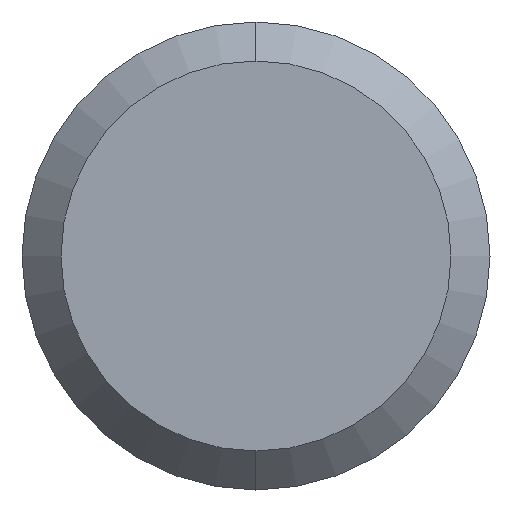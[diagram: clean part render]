
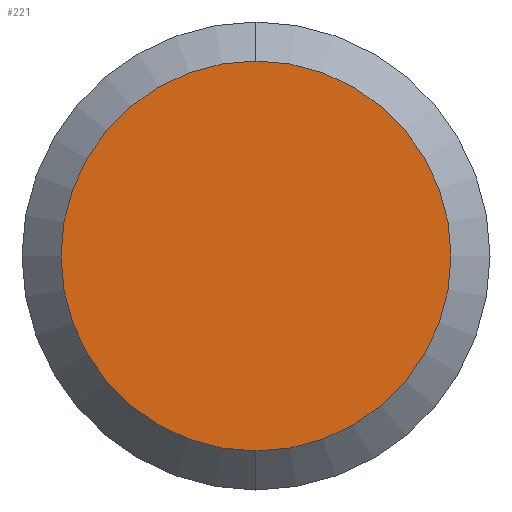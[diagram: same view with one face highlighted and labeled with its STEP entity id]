
A CAD part, left-side view. The second image highlights one B-rep face of the part: STEP entity #221.
In plain terms, the highlighted planar face has unit normal (-1, 0, 0).
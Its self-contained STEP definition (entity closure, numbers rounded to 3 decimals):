
#5 = VERTEX_POINT ( 'NONE', #322 ) ;
#13 = ORIENTED_EDGE ( 'NONE', *, *, #116, .T. ) ;
#20 = CIRCLE ( 'NONE', #216, 5. ) ;
#21 = DIRECTION ( 'NONE',  ( 1., 0., 0. ) ) ;
#60 = FACE_OUTER_BOUND ( 'NONE', #93, .T. ) ;
#66 = DIRECTION ( 'NONE',  ( 0., 0., -1. ) ) ;
#67 = DIRECTION ( 'NONE',  ( 0., 0., -1. ) ) ;
#87 = CARTESIAN_POINT ( 'NONE',  ( -108., 0., 0. ) ) ;
#93 = EDGE_LOOP ( 'NONE', ( #252, #13 ) ) ;
#113 = VERTEX_POINT ( 'NONE', #195 ) ;
#116 = EDGE_CURVE ( 'NONE', #113, #5, #20, .T. ) ;
#118 = CIRCLE ( 'NONE', #201, 5. ) ;
#123 = CARTESIAN_POINT ( 'NONE',  ( -108., 6., 0. ) ) ;
#159 = CARTESIAN_POINT ( 'NONE',  ( -108., 0., 0. ) ) ;
#195 = CARTESIAN_POINT ( 'NONE',  ( -108., 0., 5. ) ) ;
#201 = AXIS2_PLACEMENT_3D ( 'NONE', #159, #328, #67 ) ;
#204 = DIRECTION ( 'NONE',  ( 0., 0., -1. ) ) ;
#216 = AXIS2_PLACEMENT_3D ( 'NONE', #87, #226, #66 ) ;
#221 = ADVANCED_FACE ( 'NONE', ( #60 ), #285, .F. ) ;
#226 = DIRECTION ( 'NONE',  ( -1., 0., 0. ) ) ;
#252 = ORIENTED_EDGE ( 'NONE', *, *, #317, .T. ) ;
#265 = AXIS2_PLACEMENT_3D ( 'NONE', #123, #21, #204 ) ;
#285 = PLANE ( 'NONE',  #265 ) ;
#317 = EDGE_CURVE ( 'NONE', #5, #113, #118, .T. ) ;
#322 = CARTESIAN_POINT ( 'NONE',  ( -108., 0., -5. ) ) ;
#328 = DIRECTION ( 'NONE',  ( -1., 0., 0. ) ) ;
